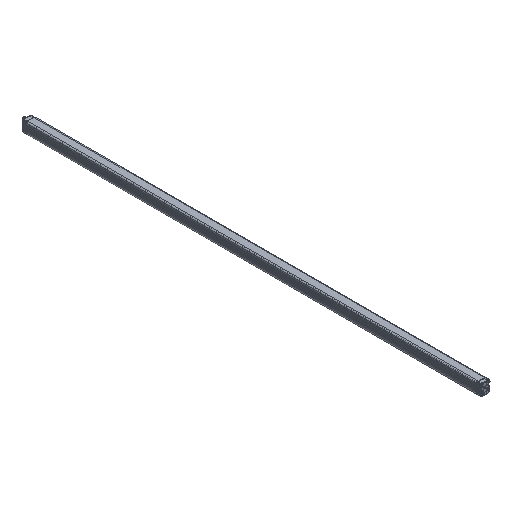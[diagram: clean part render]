
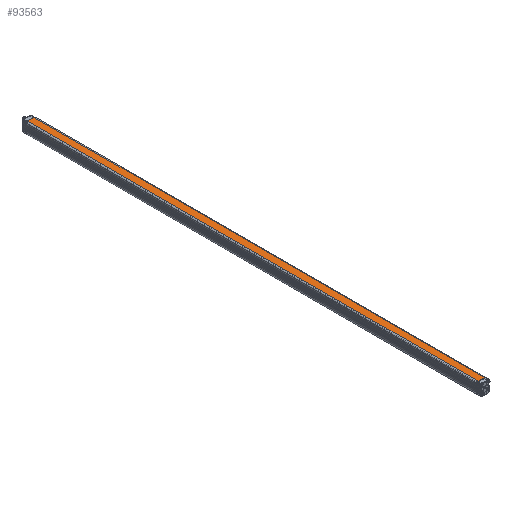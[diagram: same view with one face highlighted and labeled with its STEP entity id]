
A CAD part, isometric view. The second image highlights one B-rep face of the part: STEP entity #93563.
In plain terms, the highlighted planar face has unit normal (0, 0, 1).
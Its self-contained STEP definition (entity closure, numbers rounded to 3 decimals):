
#2337=DIRECTION('',(-1.,0.,0.));
#2338=VECTOR('',#2337,22.);
#2339=CARTESIAN_POINT('',(28.5,0.,
40.));
#2340=LINE('',#2339,#2338);
#2344=DIRECTION('',(0.,1.,0.));
#2345=VECTOR('',#2344,1542.2);
#2346=CARTESIAN_POINT('',(6.5,0.,
40.));
#2347=LINE('',#2346,#2345);
#2351=DIRECTION('',(1.,0.,0.));
#2352=VECTOR('',#2351,22.);
#2353=CARTESIAN_POINT('',(6.5,1542.2,40.));
#2354=LINE('',#2353,#2352);
#2358=CARTESIAN_POINT('',(6.5,0.,
40.));
#4051=CARTESIAN_POINT('',(28.5,0.,
40.));
#4056=DIRECTION('',(0.,1.,0.));
#4057=VECTOR('',#4056,1542.2);
#4058=CARTESIAN_POINT('',(28.5,0.,
40.));
#4059=LINE('',#4058,#4057);
#87417=CARTESIAN_POINT('',(6.5,1542.2,40.));
#87419=VERTEX_POINT('',#87417);
#87446=CARTESIAN_POINT('',(28.5,1542.2,40.));
#87448=VERTEX_POINT('',#87446);
#88651=VERTEX_POINT('',#4051);
#88677=VERTEX_POINT('',#2358);
#93549=CARTESIAN_POINT('',(6.5,0.,40.));
#93550=DIRECTION('',(0.,0.,1.));
#93551=DIRECTION('',(1.,0.,0.));
#93552=AXIS2_PLACEMENT_3D('',#93549,#93550,#93551);
#93553=PLANE('',#93552);
#93554=ORIENTED_EDGE('',*,*,#93528,.T.);
#93556=ORIENTED_EDGE('',*,*,#93555,.T.);
#93558=ORIENTED_EDGE('',*,*,#93557,.T.);
#93560=ORIENTED_EDGE('',*,*,#93559,.F.);
#93561=EDGE_LOOP('',(#93554,#93556,#93558,#93560));
#93562=FACE_OUTER_BOUND('',#93561,.F.);
#93563=ADVANCED_FACE('',(#93562),#93553,.T.);
#93528=EDGE_CURVE('',#88651,#88677,#2340,.T.);
#93555=EDGE_CURVE('',#88677,#87419,#2347,.T.);
#93557=EDGE_CURVE('',#87419,#87448,#2354,.T.);
#93559=EDGE_CURVE('',#88651,#87448,#4059,.T.);
